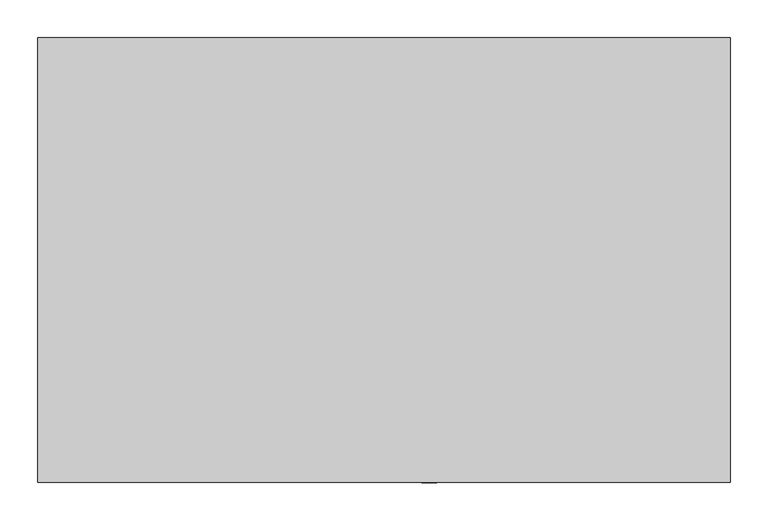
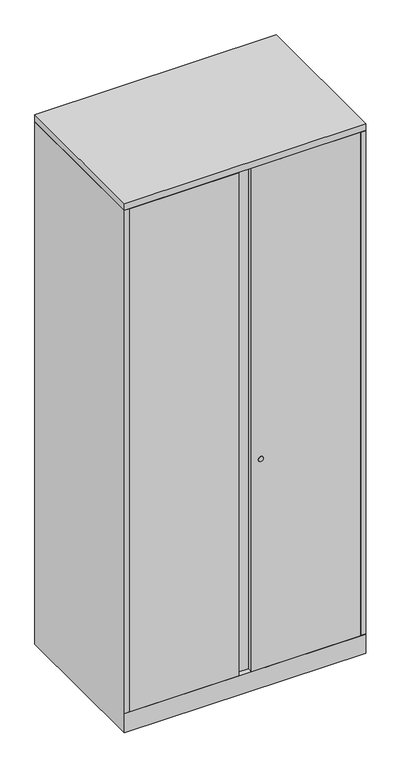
"""IFC4 building model written with IfcOpenShell, lengths in millimetres: furniture geometry, Steelcase - Universal Storage - Cabinet - Storage - 66H-84H - Flush Steel : 83 1/2H x 23 1/8D x 36W."""

from ifc_helpers import new_model, si_unit, point, frame, frame_2d, origin, place, context, project, spatial, polyline, circle_curve, trimmed, segment, composite_curve, outline, extrude, faceted_brep, source, transform, mapped, element, save


def furniture_ace1040f(model_context):
    return source(origin(), model_context, "Body", "SolidModel", [
        extrude(outline(polyline([(914.4, 0.0), (914.4, -587.502), (0.0, -587.502), (0.0, 0.0), (914.4, 0.0)])), frame((0.0, 0.0, 2095.5), z_axis=(0.0, 0.0, 1.0), x_axis=(1.0, 0.0, 0.0)), (0.0, 0.0, 1.0), 25.4000484),
        extrude(outline(composite_curve([segment(trimmed(circle_curve(frame_2d((917.575, 517.0109835)), 9.7167829), [point((917.575, 526.7277664))], [point((917.575, 507.2942006))], False, "CARTESIAN"), True, "CONTINUOUS"), segment(trimmed(circle_curve(frame_2d((917.575, 517.0109835)), 9.7167829), [point((917.575, 507.2942006))], [point((917.575, 526.7277664))], False, "CARTESIAN"), True, "CONTINUOUS")], self_intersect=False)), frame((0.0, -588.1715275, 0.0), z_axis=(0.0, 1.0, 0.0), x_axis=(0.0, 0.0, 1.0)), (0.0, 0.0, 1.0), 0.6695275),
        extrude(outline(polyline([(20.8280006, -561.975866), (893.572, -561.975866), (893.572, -587.502), (481.33, -587.502), (481.33, -568.3258781), (433.07, -568.3258781), (433.07, -587.502), (20.8280006, -587.502), (20.8280006, -561.975866)])), frame((0.0, 0.0, 77.724), z_axis=(0.0, 0.0, 1.0), x_axis=(1.0, 0.0, 0.0)), (0.0, 0.0, 1.0), 2016.252),
        faceted_brep([(914.4, 0.0, 0.0), (914.4, -587.502, 0.0), (0.0, -587.502, 0.0), (0.0, 0.0, 0.0), (0.0, 0.0, 2093.976), (914.4, 0.0, 2093.976), (0.0, -587.502, 76.2), (0.0, -587.502, 77.724), (0.0, -587.502, 2093.976), (914.4, -587.502, 76.2), (914.4, -587.502, 2093.976), (914.4, -587.502, 77.724), (889.0000242, -25.4000008, 2093.976), (889.0000242, -560.4518674, 2093.976), (893.572, -560.4518674, 2093.976), (893.572, -561.9758781, 2093.976), (895.096, -561.9758781, 2093.976), (895.096, -587.502, 2093.976), (19.304, -587.502, 2093.976), (19.304, -561.975866, 2093.976), (20.8280006, -561.975866, 2093.976), (20.8280006, -560.4518674, 2093.976), (25.4000008, -560.4518674, 2093.976), (25.4000008, -25.4000008, 2093.976), (19.304, -587.502, 77.724), (19.304, -568.198, 77.724), (895.096, -587.502, 77.724), (895.096, -568.0718418, 77.724), (889.0000242, -25.4000008, 77.724), (889.0000242, -560.4518674, 77.724), (893.572, -560.4518674, 77.724), (893.572, -561.9758781, 77.724), (895.096, -561.9758781, 77.724), (19.304, -561.975866, 77.724), (20.8280006, -561.975866, 77.724), (20.8280006, -560.4518674, 77.724), (25.4000008, -560.4518674, 77.724), (25.4000008, -25.4000008, 77.724), (25.526134, -561.975866, 77.724), (889.0000242, -561.975866, 77.724)], [[[0, 1, 2, 3]], [[0, 3, 4, 5]], [[4, 3, 2, 6, 7, 8]], [[2, 1, 9, 6]], [[1, 0, 5, 10, 11, 9]], [[12, 13, 14, 15, 16, 17, 10, 5, 4, 8, 18, 19, 20, 21, 22, 23]], [[24, 7, 25]], [[11, 26, 27]], [[13, 12, 28, 29]], [[14, 13, 29, 30]], [[15, 14, 30, 31]], [[16, 15, 31, 32]], [[17, 16, 32, 27, 26]], [[10, 17, 26, 11]], [[18, 8, 7, 24]], [[19, 18, 24, 25, 33]], [[20, 19, 33, 34]], [[21, 20, 34, 35]], [[22, 21, 35, 36]], [[23, 22, 36, 37]], [[12, 23, 37, 28]], [[38, 39, 27, 32, 31, 30, 29, 28, 37, 36, 35, 34, 33, 25]], [[7, 6, 38, 25]], [[39, 38, 6, 9]], [[39, 9, 11, 27]]]),
    ])


if __name__ == "__main__":
    model = new_model("IFC4")
    model_context = context("Model", 3, world=origin())
    ifc_project = project(units=[si_unit("LENGTHUNIT", "METRE", prefix="MILLI")], contexts=[model_context])
    site = spatial("IfcSite", under=ifc_project)
    building = spatial("IfcBuilding", under=site)
    placement = place(None, origin())
    furniture_shape = furniture_ace1040f(model_context)
    element("IfcFurniture", 1, ObjectType="Steelcase - Universal Storage - Cabinet - Storage - 66H-84H - Flush Steel : 83 1/2H x 23 1/8D x 36W", at=placement, inside=building, context=model_context, shape_type="MappedRepresentation", body=[
        mapped(furniture_shape, transform((0.0, 0.0, 0.0), x_axis=(1.0, 0.0, 0.0), y_axis=(0.0, 1.0, 0.0), z_axis=(0.0, 0.0, 1.0))),
    ])
    save(model, "model.ifc")
